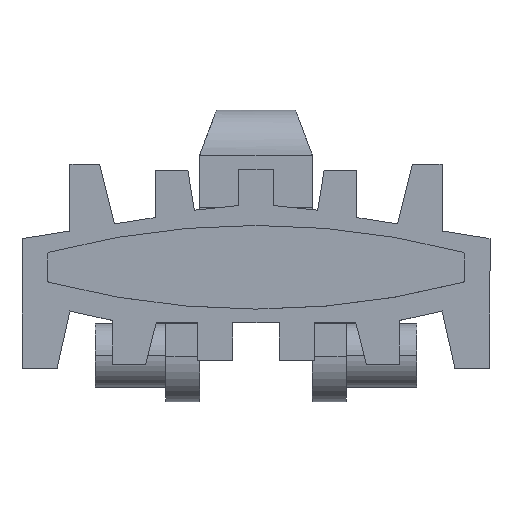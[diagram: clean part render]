
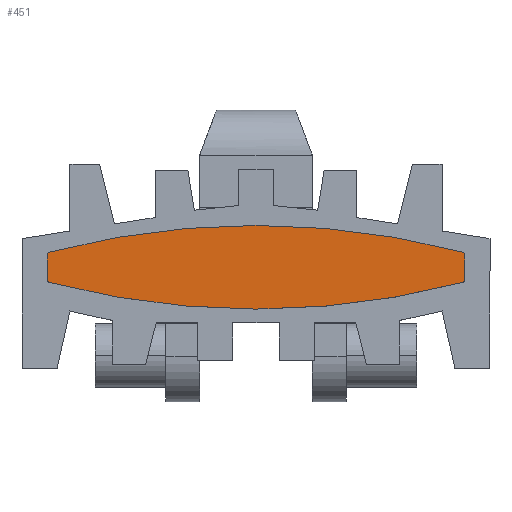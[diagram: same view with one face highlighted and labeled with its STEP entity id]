
A CAD part, top view. The second image highlights one B-rep face of the part: STEP entity #451.
In plain terms, the highlighted planar face has unit normal (0, 0, 1).
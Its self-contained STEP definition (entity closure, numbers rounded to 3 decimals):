
#16 = DIRECTION ( 'NONE',  ( -1., 0., 0. ) ) ;
#89 = CIRCLE ( 'NONE', #2135, 144.264 ) ;
#101 = DIRECTION ( 'NONE',  ( -1., 0., 0. ) ) ;
#133 = ORIENTED_EDGE ( 'NONE', *, *, #2615, .T. ) ;
#176 = VERTEX_POINT ( 'NONE', #322 ) ;
#181 = EDGE_CURVE ( 'NONE', #874, #2330, #952, .T. ) ;
#199 = CIRCLE ( 'NONE', #509, 0.5 ) ;
#211 = CARTESIAN_POINT ( 'NONE',  ( 155.601, 125.331, 34.1 ) ) ;
#239 = VERTEX_POINT ( 'NONE', #2044 ) ;
#291 = CIRCLE ( 'NONE', #2907, 0.5 ) ;
#320 = VERTEX_POINT ( 'NONE', #3004 ) ;
#322 = CARTESIAN_POINT ( 'NONE',  ( 229.6, 130.124, 34.1 ) ) ;
#327 = CARTESIAN_POINT ( 'NONE',  ( 192.582, 264.765, 34.1 ) ) ;
#336 = AXIS2_PLACEMENT_3D ( 'NONE', #3077, #1209, #101 ) ;
#414 = CARTESIAN_POINT ( 'NONE',  ( 229.6, 130.509, 34.1 ) ) ;
#439 = EDGE_CURVE ( 'NONE', #239, #3161, #89, .T. ) ;
#447 = DIRECTION ( 'NONE',  ( 0., -1., 0. ) ) ;
#451 = ADVANCED_FACE ( 'NONE', ( #1826 ), #2744, .F. ) ;
#509 = AXIS2_PLACEMENT_3D ( 'NONE', #1700, #2464, #1662 ) ;
#555 = CARTESIAN_POINT ( 'NONE',  ( 229.227, 125.233, 34.1 ) ) ;
#563 = AXIS2_PLACEMENT_3D ( 'NONE', #327, #2806, #1175 ) ;
#622 = DIRECTION ( 'NONE',  ( 0., 0., 1. ) ) ;
#682 = EDGE_LOOP ( 'NONE', ( #2636, #2590, #1679, #1993, #133, #1244, #1797, #2420, #3022, #3046 ) ) ;
#837 = CARTESIAN_POINT ( 'NONE',  ( 192.619, -8.925, 34.1 ) ) ;
#860 = EDGE_CURVE ( 'NONE', #3226, #2577, #199, .T. ) ;
#869 = DIRECTION ( 'NONE',  ( -1., 0., 0. ) ) ;
#874 = VERTEX_POINT ( 'NONE', #555 ) ;
#903 = EDGE_CURVE ( 'NONE', #176, #2066, #3390, .T. ) ;
#912 = DIRECTION ( 'NONE',  ( -1., 0., 0. ) ) ;
#952 = CIRCLE ( 'NONE', #1387, 0.5 ) ;
#1062 = CARTESIAN_POINT ( 'NONE',  ( 156.101, 130.124, 34.1 ) ) ;
#1070 = AXIS2_PLACEMENT_3D ( 'NONE', #2022, #3379, #912 ) ;
#1135 = EDGE_CURVE ( 'NONE', #3161, #1701, #291, .T. ) ;
#1175 = DIRECTION ( 'NONE',  ( -1., 0., 0. ) ) ;
#1209 = DIRECTION ( 'NONE',  ( 0., 0., 1. ) ) ;
#1244 = ORIENTED_EDGE ( 'NONE', *, *, #439, .T. ) ;
#1339 = DIRECTION ( 'NONE',  ( -1., 0., 0. ) ) ;
#1387 = AXIS2_PLACEMENT_3D ( 'NONE', #2262, #622, #869 ) ;
#1388 = EDGE_CURVE ( 'NONE', #320, #874, #2535, .T. ) ;
#1405 = CARTESIAN_POINT ( 'NONE',  ( 192.582, 264.765, 34.1 ) ) ;
#1543 = EDGE_CURVE ( 'NONE', #2577, #320, #2157, .T. ) ;
#1639 = CARTESIAN_POINT ( 'NONE',  ( 229.227, 130.608, 34.1 ) ) ;
#1662 = DIRECTION ( 'NONE',  ( -1., 0., 0. ) ) ;
#1678 = DIRECTION ( 'NONE',  ( -1., 0., 0. ) ) ;
#1679 = ORIENTED_EDGE ( 'NONE', *, *, #2747, .T. ) ;
#1700 = CARTESIAN_POINT ( 'NONE',  ( 156.101, 125.716, 34.1 ) ) ;
#1701 = VERTEX_POINT ( 'NONE', #1813 ) ;
#1702 = DIRECTION ( 'NONE',  ( -1., 0., 0. ) ) ;
#1753 = CARTESIAN_POINT ( 'NONE',  ( 155.975, 125.232, 34.1 ) ) ;
#1797 = ORIENTED_EDGE ( 'NONE', *, *, #1135, .T. ) ;
#1813 = CARTESIAN_POINT ( 'NONE',  ( 155.601, 130.124, 34.1 ) ) ;
#1826 = FACE_OUTER_BOUND ( 'NONE', #682, .T. ) ;
#1870 = AXIS2_PLACEMENT_3D ( 'NONE', #1958, #1933, #16 ) ;
#1878 = CARTESIAN_POINT ( 'NONE',  ( 229.6, 125.716, 34.1 ) ) ;
#1928 = CARTESIAN_POINT ( 'NONE',  ( 155.974, 130.608, 34.1 ) ) ;
#1933 = DIRECTION ( 'NONE',  ( 0., 0., 1. ) ) ;
#1956 = CARTESIAN_POINT ( 'NONE',  ( 155.601, 125.716, 34.1 ) ) ;
#1958 = CARTESIAN_POINT ( 'NONE',  ( 229.1, 130.124, 34.1 ) ) ;
#1993 = ORIENTED_EDGE ( 'NONE', *, *, #903, .T. ) ;
#2022 = CARTESIAN_POINT ( 'NONE',  ( 192.767, 265.914, 34.1 ) ) ;
#2044 = CARTESIAN_POINT ( 'NONE',  ( 192.601, 135.339, 34.1 ) ) ;
#2065 = LINE ( 'NONE', #414, #2897 ) ;
#2066 = VERTEX_POINT ( 'NONE', #1639 ) ;
#2099 = AXIS2_PLACEMENT_3D ( 'NONE', #1405, #3295, #1678 ) ;
#2135 = AXIS2_PLACEMENT_3D ( 'NONE', #837, #3323, #1702 ) ;
#2157 = CIRCLE ( 'NONE', #1070, 145.413 ) ;
#2262 = CARTESIAN_POINT ( 'NONE',  ( 229.1, 125.716, 34.1 ) ) ;
#2330 = VERTEX_POINT ( 'NONE', #1878 ) ;
#2388 = CIRCLE ( 'NONE', #336, 144.264 ) ;
#2417 = LINE ( 'NONE', #211, #3059 ) ;
#2420 = ORIENTED_EDGE ( 'NONE', *, *, #2977, .T. ) ;
#2464 = DIRECTION ( 'NONE',  ( 0., 0., 1. ) ) ;
#2535 = CIRCLE ( 'NONE', #563, 144.264 ) ;
#2577 = VERTEX_POINT ( 'NONE', #1753 ) ;
#2590 = ORIENTED_EDGE ( 'NONE', *, *, #181, .T. ) ;
#2615 = EDGE_CURVE ( 'NONE', #2066, #239, #2388, .T. ) ;
#2636 = ORIENTED_EDGE ( 'NONE', *, *, #1388, .T. ) ;
#2744 = PLANE ( 'NONE',  #2099 ) ;
#2747 = EDGE_CURVE ( 'NONE', #2330, #176, #2065, .T. ) ;
#2806 = DIRECTION ( 'NONE',  ( 0., 0., 1. ) ) ;
#2897 = VECTOR ( 'NONE', #3166, 1000. ) ;
#2907 = AXIS2_PLACEMENT_3D ( 'NONE', #1062, #2975, #1339 ) ;
#2975 = DIRECTION ( 'NONE',  ( 0., 0., 1. ) ) ;
#2977 = EDGE_CURVE ( 'NONE', #1701, #3226, #2417, .T. ) ;
#3004 = CARTESIAN_POINT ( 'NONE',  ( 192.582, 120.501, 34.1 ) ) ;
#3022 = ORIENTED_EDGE ( 'NONE', *, *, #860, .T. ) ;
#3046 = ORIENTED_EDGE ( 'NONE', *, *, #1543, .T. ) ;
#3059 = VECTOR ( 'NONE', #447, 1000. ) ;
#3077 = CARTESIAN_POINT ( 'NONE',  ( 192.582, -8.925, 34.1 ) ) ;
#3161 = VERTEX_POINT ( 'NONE', #1928 ) ;
#3166 = DIRECTION ( 'NONE',  ( 0., 1., 0. ) ) ;
#3226 = VERTEX_POINT ( 'NONE', #1956 ) ;
#3295 = DIRECTION ( 'NONE',  ( 0., 0., -1. ) ) ;
#3323 = DIRECTION ( 'NONE',  ( 0., 0., 1. ) ) ;
#3379 = DIRECTION ( 'NONE',  ( 0., 0., 1. ) ) ;
#3390 = CIRCLE ( 'NONE', #1870, 0.5 ) ;
